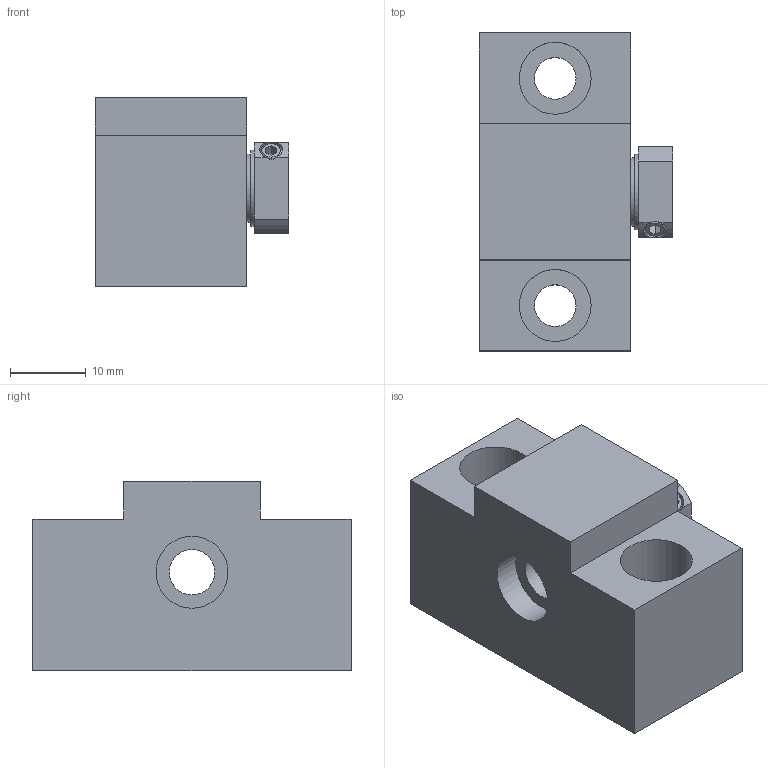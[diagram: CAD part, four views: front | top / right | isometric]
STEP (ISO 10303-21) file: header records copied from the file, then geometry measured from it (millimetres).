
FILE_DESCRIPTION((''),'2;1');
FILE_NAME('D:\製品 (図面)\カタログ用3D\ネジ関連\STEP形式\SUH\SUH6.stp','2010-06-02T14:49:47',('Tsuchiya'),(''),'Autodesk Inventor 10','Autodesk Inventor 10','');
FILE_SCHEMA(('AUTOMOTIVE_DESIGN { 1 0 10303 214 1 1 1 1 }'));
Length unit declared in the file: millimetre
Products named in the file (1): SUH6
Bounding box: 25.5 x 42 x 25 mm (x, y, z)
Volume: 16408.1 mm3; surface area: 6300.2 mm2
Topology: 1 solids, 1 shells, 47 faces, 108 edges, 72 vertices
Faces by surface type: plane 28, cylinder 12, bspline 6, cone 1
Full cylindrical faces by diameter (mm): 2.1 x2, 3 x1, 6 x1, 9 x1, 9.5 x1, 10 x1
Entity records: 1401 total; most frequent: CARTESIAN_POINT 338, DIRECTION 208, ORIENTED_EDGE 192, EDGE_CURVE 96, AXIS2_PLACEMENT_3D 74, EDGE_LOOP 74, VERTEX_POINT 72, VECTOR 60
